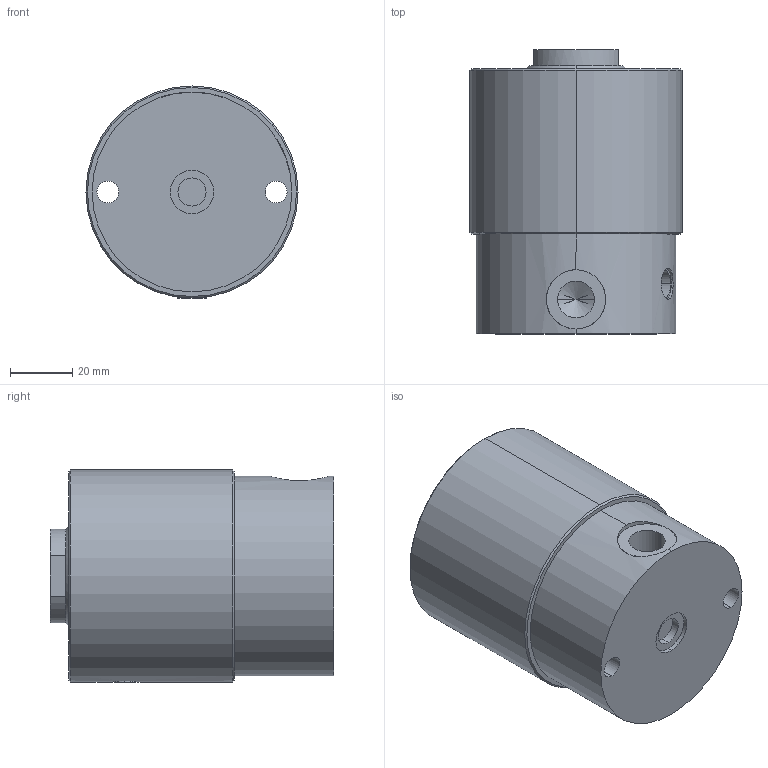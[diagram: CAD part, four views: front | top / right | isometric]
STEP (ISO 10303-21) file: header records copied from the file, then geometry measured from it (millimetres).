
FILE_DESCRIPTION (( 'STEP AP214' ), '1' );
FILE_NAME ('SP-T32B(1914-010).STEP', '2021-10-19T00:40:33', ( '' ), ( '' ), 'SwSTEP 2.0', 'SolidWorks 2016', '' );
FILE_SCHEMA (( 'AUTOMOTIVE_DESIGN' ));
Length unit declared in the file: millimetre
Products named in the file (1): SP-T32B(1914-010)
Bounding box: 68 x 91 x 68 mm (x, y, z)
Volume: 287450.1 mm3; surface area: 31376.2 mm2
Topology: 1 solids, 2 shells, 72 faces, 162 edges, 100 vertices
Faces by surface type: cylinder 35, plane 25, cone 12
Entity records: 2321 total; most frequent: CARTESIAN_POINT 565, DIRECTION 365, ORIENTED_EDGE 312, EDGE_CURVE 156, AXIS2_PLACEMENT_3D 146, VERTEX_POINT 100, EDGE_LOOP 88, LINE 73
